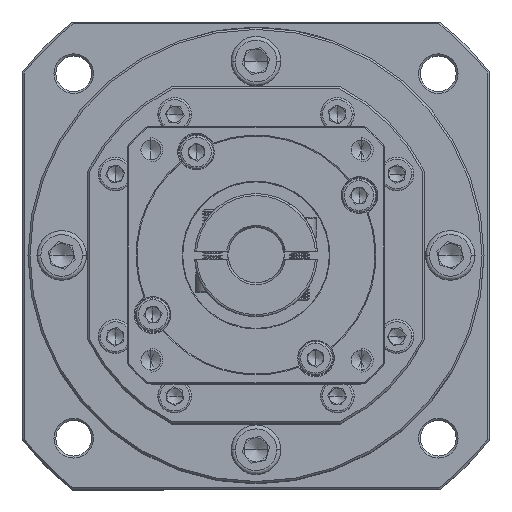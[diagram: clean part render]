
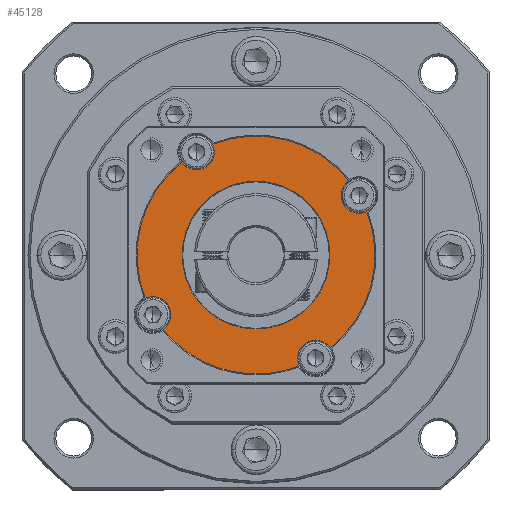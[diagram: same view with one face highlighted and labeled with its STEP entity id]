
A CAD part, top view. The second image highlights one B-rep face of the part: STEP entity #45128.
In plain terms, the highlighted planar face has unit normal (0, 0, 1).
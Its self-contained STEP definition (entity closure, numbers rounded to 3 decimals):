
#3628 = EDGE_CURVE ( 'NONE', #27309, #52876, #71101, .T. ) ;
#4473 = CARTESIAN_POINT ( 'NONE',  ( 93.557, 69.497, -7.851 ) ) ;
#5297 = CIRCLE ( 'NONE', #116151, 30. ) ;
#5355 = DIRECTION ( 'NONE',  ( 0., 0., 1. ) ) ;
#5994 = FACE_BOUND ( 'NONE', #88863, .T. ) ;
#8061 = DIRECTION ( 'NONE',  ( 0., -1., 0. ) ) ;
#8530 = CARTESIAN_POINT ( 'NONE',  ( 82.612, 97.429, -7.851 ) ) ;
#8568 = CARTESIAN_POINT ( 'NONE',  ( 82.612, 97.429, -7.851 ) ) ;
#8994 = DIRECTION ( 'NONE',  ( 0., -1., 0. ) ) ;
#9193 = ORIENTED_EDGE ( 'NONE', *, *, #131522, .T. ) ;
#10143 = DIRECTION ( 'NONE',  ( 0., -1., 0. ) ) ;
#12368 = CARTESIAN_POINT ( 'NONE',  ( 82.612, 78.785, -7.851 ) ) ;
#12456 = AXIS2_PLACEMENT_3D ( 'NONE', #31479, #106456, #126540 ) ;
#15810 = DIRECTION ( 'NONE',  ( 0., -1., 0. ) ) ;
#16097 = DIRECTION ( 'NONE',  ( 0., -1., 0. ) ) ;
#16275 = CARTESIAN_POINT ( 'NONE',  ( 82.612, 97.429, -7.851 ) ) ;
#16800 = DIRECTION ( 'NONE',  ( 0., -1., 0. ) ) ;
#17698 = CIRCLE ( 'NONE', #118502, 30. ) ;
#17714 = CARTESIAN_POINT ( 'NONE',  ( 108.593, 112.429, -7.851 ) ) ;
#18645 = DIRECTION ( 'NONE',  ( 0., 0., 1. ) ) ;
#19147 = DIRECTION ( 'NONE',  ( 0., 0., 1. ) ) ;
#20155 = AXIS2_PLACEMENT_3D ( 'NONE', #78165, #69424, #119947 ) ;
#20754 = CARTESIAN_POINT ( 'NONE',  ( 67.612, 118.91, -7.851 ) ) ;
#20791 = AXIS2_PLACEMENT_3D ( 'NONE', #17714, #49373, #8061 ) ;
#22633 = CARTESIAN_POINT ( 'NONE',  ( 63.895, 120.874, -7.851 ) ) ;
#23691 = CARTESIAN_POINT ( 'NONE',  ( 56.632, 82.429, -7.851 ) ) ;
#24840 = CIRCLE ( 'NONE', #132323, 18.644 ) ;
#25365 = DIRECTION ( 'NONE',  ( 0., -1., 0. ) ) ;
#26417 = DIRECTION ( 'NONE',  ( 0., -1., 0. ) ) ;
#27309 = VERTEX_POINT ( 'NONE', #117063 ) ;
#27459 = AXIS2_PLACEMENT_3D ( 'NONE', #102569, #59745, #50468 ) ;
#27754 = CARTESIAN_POINT ( 'NONE',  ( 82.612, 67.429, -7.851 ) ) ;
#28367 = CARTESIAN_POINT ( 'NONE',  ( 82.612, 116.074, -7.851 ) ) ;
#28511 = DIRECTION ( 'NONE',  ( 0., 0., 1. ) ) ;
#29111 = VERTEX_POINT ( 'NONE', #84893 ) ;
#29433 = ORIENTED_EDGE ( 'NONE', *, *, #120960, .F. ) ;
#29838 = CARTESIAN_POINT ( 'NONE',  ( 82.612, 97.429, -7.851 ) ) ;
#31479 = CARTESIAN_POINT ( 'NONE',  ( 67.612, 123.41, -7.851 ) ) ;
#31782 = CARTESIAN_POINT ( 'NONE',  ( 106.057, 116.147, -7.851 ) ) ;
#32179 = VERTEX_POINT ( 'NONE', #131325 ) ;
#36485 = EDGE_CURVE ( 'NONE', #66169, #105108, #24840, .T. ) ;
#37616 = VERTEX_POINT ( 'NONE', #27754 ) ;
#37850 = ORIENTED_EDGE ( 'NONE', *, *, #77404, .T. ) ;
#38020 = AXIS2_PLACEMENT_3D ( 'NONE', #117575, #44427, #128999 ) ;
#38746 = CARTESIAN_POINT ( 'NONE',  ( 71.667, 125.361, -7.851 ) ) ;
#39888 = EDGE_CURVE ( 'NONE', #105108, #66169, #97303, .T. ) ;
#42300 = AXIS2_PLACEMENT_3D ( 'NONE', #99525, #131096, #26417 ) ;
#43159 = CARTESIAN_POINT ( 'NONE',  ( 54.68, 86.484, -7.851 ) ) ;
#44427 = DIRECTION ( 'NONE',  ( 0., 0., 1. ) ) ;
#45128 = ADVANCED_FACE ( 'NONE', ( #5994, #51901 ), #50769, .T. ) ;
#45189 = EDGE_CURVE ( 'NONE', #118297, #105834, #114401, .T. ) ;
#47194 = VERTEX_POINT ( 'NONE', #31782 ) ;
#49373 = DIRECTION ( 'NONE',  ( 0., 0., 1. ) ) ;
#49854 = ORIENTED_EDGE ( 'NONE', *, *, #36485, .T. ) ;
#50468 = DIRECTION ( 'NONE',  ( 0., -1., 0. ) ) ;
#50724 = DIRECTION ( 'NONE',  ( 0., -1., 0. ) ) ;
#50769 = PLANE ( 'NONE',  #109359 ) ;
#51121 = CIRCLE ( 'NONE', #20155, 30. ) ;
#51901 = FACE_OUTER_BOUND ( 'NONE', #123217, .T. ) ;
#52611 = DIRECTION ( 'NONE',  ( 0., -1., 0. ) ) ;
#52876 = VERTEX_POINT ( 'NONE', #121881 ) ;
#53078 = CARTESIAN_POINT ( 'NONE',  ( 82.612, 97.429, -7.851 ) ) ;
#55164 = CIRCLE ( 'NONE', #27459, 4.5 ) ;
#55491 = ORIENTED_EDGE ( 'NONE', *, *, #129959, .T. ) ;
#59399 = EDGE_CURVE ( 'NONE', #27309, #37616, #17698, .T. ) ;
#59745 = DIRECTION ( 'NONE',  ( 0., 0., 1. ) ) ;
#60339 = EDGE_CURVE ( 'NONE', #75498, #29111, #83031, .T. ) ;
#61086 = DIRECTION ( 'NONE',  ( 0., -1., 0. ) ) ;
#62847 = CARTESIAN_POINT ( 'NONE',  ( 101.33, 73.984, -7.851 ) ) ;
#66169 = VERTEX_POINT ( 'NONE', #28367 ) ;
#67241 = ORIENTED_EDGE ( 'NONE', *, *, #59399, .T. ) ;
#67829 = AXIS2_PLACEMENT_3D ( 'NONE', #85132, #83319, #10143 ) ;
#68005 = CIRCLE ( 'NONE', #120461, 4.5 ) ;
#68652 = ORIENTED_EDGE ( 'NONE', *, *, #45189, .F. ) ;
#69424 = DIRECTION ( 'NONE',  ( 0., 0., 1. ) ) ;
#71101 = CIRCLE ( 'NONE', #42300, 4.5 ) ;
#73553 = ORIENTED_EDGE ( 'NONE', *, *, #93854, .T. ) ;
#75498 = VERTEX_POINT ( 'NONE', #62847 ) ;
#75659 = VERTEX_POINT ( 'NONE', #4473 ) ;
#77329 = VERTEX_POINT ( 'NONE', #22633 ) ;
#77404 = EDGE_CURVE ( 'NONE', #47194, #105834, #87004, .T. ) ;
#78165 = CARTESIAN_POINT ( 'NONE',  ( 82.612, 97.429, -7.851 ) ) ;
#79826 = CARTESIAN_POINT ( 'NONE',  ( 97.612, 71.449, -7.851 ) ) ;
#82707 = AXIS2_PLACEMENT_3D ( 'NONE', #23691, #107890, #86706 ) ;
#83031 = CIRCLE ( 'NONE', #117645, 4.5 ) ;
#83319 = DIRECTION ( 'NONE',  ( 0., 0., -1. ) ) ;
#83589 = EDGE_CURVE ( 'NONE', #52876, #121663, #110599, .T. ) ;
#84760 = DIRECTION ( 'NONE',  ( 0., 0., 1. ) ) ;
#84817 = EDGE_CURVE ( 'NONE', #77329, #118297, #88438, .T. ) ;
#84893 = CARTESIAN_POINT ( 'NONE',  ( 97.612, 75.949, -7.851 ) ) ;
#84910 = DIRECTION ( 'NONE',  ( 0., 0., 1. ) ) ;
#85132 = CARTESIAN_POINT ( 'NONE',  ( 82.612, 97.429, -7.851 ) ) ;
#85211 = CARTESIAN_POINT ( 'NONE',  ( 82.612, 97.429, -7.851 ) ) ;
#86706 = DIRECTION ( 'NONE',  ( 0., -1., 0. ) ) ;
#87004 = CIRCLE ( 'NONE', #90582, 30. ) ;
#87944 = ORIENTED_EDGE ( 'NONE', *, *, #84817, .F. ) ;
#88438 = CIRCLE ( 'NONE', #38020, 4.5 ) ;
#88788 = CARTESIAN_POINT ( 'NONE',  ( 108.593, 112.429, -7.851 ) ) ;
#88863 = EDGE_LOOP ( 'NONE', ( #93009, #49854 ) ) ;
#88874 = ORIENTED_EDGE ( 'NONE', *, *, #83589, .F. ) ;
#90582 = AXIS2_PLACEMENT_3D ( 'NONE', #85211, #84760, #25365 ) ;
#93009 = ORIENTED_EDGE ( 'NONE', *, *, #39888, .T. ) ;
#93455 = VERTEX_POINT ( 'NONE', #100187 ) ;
#93854 = EDGE_CURVE ( 'NONE', #77329, #121663, #5297, .T. ) ;
#97303 = CIRCLE ( 'NONE', #67829, 18.644 ) ;
#99525 = CARTESIAN_POINT ( 'NONE',  ( 56.632, 82.429, -7.851 ) ) ;
#100187 = CARTESIAN_POINT ( 'NONE',  ( 110.544, 108.374, -7.851 ) ) ;
#100939 = DIRECTION ( 'NONE',  ( 0., 0., -1. ) ) ;
#102569 = CARTESIAN_POINT ( 'NONE',  ( 97.612, 71.449, -7.851 ) ) ;
#105108 = VERTEX_POINT ( 'NONE', #12368 ) ;
#105834 = VERTEX_POINT ( 'NONE', #38746 ) ;
#106456 = DIRECTION ( 'NONE',  ( 0., 0., 1. ) ) ;
#107890 = DIRECTION ( 'NONE',  ( 0., 0., 1. ) ) ;
#109359 = AXIS2_PLACEMENT_3D ( 'NONE', #8568, #19147, #8994 ) ;
#110254 = CIRCLE ( 'NONE', #20791, 4.5 ) ;
#110599 = CIRCLE ( 'NONE', #82707, 4.5 ) ;
#111321 = DIRECTION ( 'NONE',  ( 0., 0., 1. ) ) ;
#114401 = CIRCLE ( 'NONE', #12456, 4.5 ) ;
#116151 = AXIS2_PLACEMENT_3D ( 'NONE', #53078, #84910, #52611 ) ;
#117063 = CARTESIAN_POINT ( 'NONE',  ( 59.168, 78.712, -7.851 ) ) ;
#117575 = CARTESIAN_POINT ( 'NONE',  ( 67.612, 123.41, -7.851 ) ) ;
#117645 = AXIS2_PLACEMENT_3D ( 'NONE', #79826, #5355, #16800 ) ;
#118297 = VERTEX_POINT ( 'NONE', #20754 ) ;
#118502 = AXIS2_PLACEMENT_3D ( 'NONE', #8530, #18645, #50724 ) ;
#118578 = AXIS2_PLACEMENT_3D ( 'NONE', #29838, #28511, #61086 ) ;
#119947 = DIRECTION ( 'NONE',  ( 0., -1., 0. ) ) ;
#120461 = AXIS2_PLACEMENT_3D ( 'NONE', #88788, #111321, #16097 ) ;
#120960 = EDGE_CURVE ( 'NONE', #32179, #93455, #110254, .T. ) ;
#121663 = VERTEX_POINT ( 'NONE', #43159 ) ;
#121881 = CARTESIAN_POINT ( 'NONE',  ( 56.632, 86.929, -7.851 ) ) ;
#123217 = EDGE_LOOP ( 'NONE', ( #87944, #73553, #88874, #130740, #67241, #9193, #123687, #126346, #55491, #29433, #125966, #37850, #68652 ) ) ;
#123687 = ORIENTED_EDGE ( 'NONE', *, *, #129943, .F. ) ;
#125966 = ORIENTED_EDGE ( 'NONE', *, *, #127579, .F. ) ;
#126346 = ORIENTED_EDGE ( 'NONE', *, *, #60339, .F. ) ;
#126540 = DIRECTION ( 'NONE',  ( 0., -1., 0. ) ) ;
#127579 = EDGE_CURVE ( 'NONE', #47194, #32179, #68005, .T. ) ;
#127590 = CIRCLE ( 'NONE', #118578, 30. ) ;
#128999 = DIRECTION ( 'NONE',  ( 0., -1., 0. ) ) ;
#129943 = EDGE_CURVE ( 'NONE', #29111, #75659, #55164, .T. ) ;
#129959 = EDGE_CURVE ( 'NONE', #75498, #93455, #127590, .T. ) ;
#130740 = ORIENTED_EDGE ( 'NONE', *, *, #3628, .F. ) ;
#131096 = DIRECTION ( 'NONE',  ( 0., 0., 1. ) ) ;
#131325 = CARTESIAN_POINT ( 'NONE',  ( 108.593, 107.929, -7.851 ) ) ;
#131522 = EDGE_CURVE ( 'NONE', #37616, #75659, #51121, .T. ) ;
#132323 = AXIS2_PLACEMENT_3D ( 'NONE', #16275, #100939, #15810 ) ;
